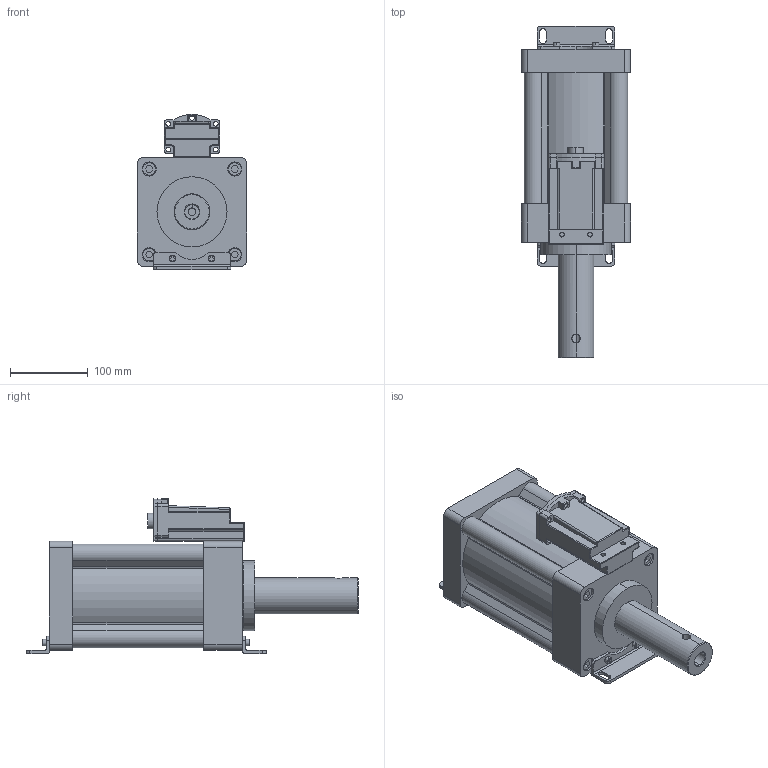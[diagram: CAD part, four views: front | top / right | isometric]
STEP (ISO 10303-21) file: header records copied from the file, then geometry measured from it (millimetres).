
FILE_DESCRIPTION (( 'STEP AP203' ), '1' );
FILE_NAME ('MHA1217N70.STEP', '2016-03-19T03:47:20', ( 'WIN' ), ( '' ), 'SwSTEP 2.0', 'SolidWorks 2014', '' );
FILE_SCHEMA (( 'CONFIG_CONTROL_DESIGN' ));
Length unit declared in the file: millimetre
Products named in the file (1): MHA1217N70
Bounding box: 140 x 426 x 198.97 mm (x, y, z)
Surface area: 423168.3 mm2 (no closed solid volume)
Topology: 0 solids, 6 shells, 454 faces, 1149 edges, 736 vertices
Faces by surface type: plane 219, cylinder 200, cone 20, sphere 8, torus 5, bspline 2
Entity records: 14246 total; most frequent: CARTESIAN_POINT 2963, DIRECTION 2418, ORIENTED_EDGE 2251, EDGE_CURVE 1137, AXIS2_PLACEMENT_3D 861, VERTEX_POINT 736, VECTOR 696, LINE 696
